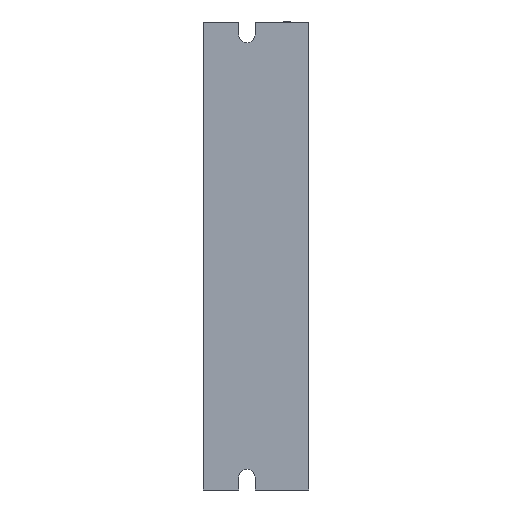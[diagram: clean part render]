
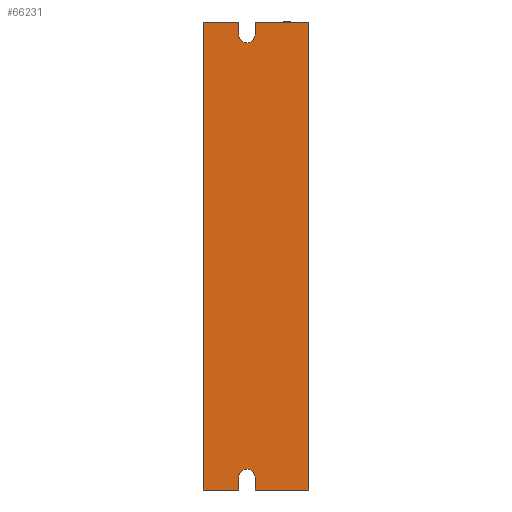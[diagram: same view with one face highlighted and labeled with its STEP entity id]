
A CAD part, left-side view. The second image highlights one B-rep face of the part: STEP entity #66231.
In plain terms, the highlighted planar face has unit normal (-1, 0, 0).
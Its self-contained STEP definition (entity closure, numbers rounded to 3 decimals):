
#467 = DIRECTION ( 'NONE',  ( 0., 0., -1. ) ) ;
#529 = VECTOR ( 'NONE', #26102, 1000. ) ;
#800 = CARTESIAN_POINT ( 'NONE',  ( -37.37, -7.832, 193.5 ) ) ;
#1780 = DIRECTION ( 'NONE',  ( 0., 0., 1. ) ) ;
#2423 = VERTEX_POINT ( 'NONE', #50806 ) ;
#3290 = LINE ( 'NONE', #75510, #19864 ) ;
#3398 = LINE ( 'NONE', #19207, #28697 ) ;
#3845 = EDGE_CURVE ( 'NONE', #77020, #67720, #69221, .T. ) ;
#4644 = ORIENTED_EDGE ( 'NONE', *, *, #79911, .T. ) ;
#5665 = ORIENTED_EDGE ( 'NONE', *, *, #71556, .T. ) ;
#6451 = PLANE ( 'NONE',  #64745 ) ;
#6980 = DIRECTION ( 'NONE',  ( 0., 0., -1. ) ) ;
#7286 = CARTESIAN_POINT ( 'NONE',  ( -37.37, 21.168, 193.5 ) ) ;
#7424 = LINE ( 'NONE', #18333, #68313 ) ;
#11623 = DIRECTION ( 'NONE',  ( 0., -1., 0. ) ) ;
#12951 = DIRECTION ( 'NONE',  ( 1., 0., 0. ) ) ;
#13306 = CIRCLE ( 'NONE', #31513, 2.25 ) ;
#13523 = ORIENTED_EDGE ( 'NONE', *, *, #27476, .T. ) ;
#13761 = ORIENTED_EDGE ( 'NONE', *, *, #72389, .T. ) ;
#15510 = EDGE_CURVE ( 'NONE', #65883, #2423, #7424, .T. ) ;
#16359 = LINE ( 'NONE', #79623, #80301 ) ;
#17771 = AXIS2_PLACEMENT_3D ( 'NONE', #49973, #12951, #56271 ) ;
#18207 = CARTESIAN_POINT ( 'NONE',  ( -37.37, 11.418, 68. ) ) ;
#18333 = CARTESIAN_POINT ( 'NONE',  ( -37.37, 11.418, 193.5 ) ) ;
#18348 = DIRECTION ( 'NONE',  ( 0., 0., 1. ) ) ;
#18935 = ORIENTED_EDGE ( 'NONE', *, *, #79303, .T. ) ;
#19012 = LINE ( 'NONE', #69257, #529 ) ;
#19207 = CARTESIAN_POINT ( 'NONE',  ( -37.37, -7.832, 193.5 ) ) ;
#19215 = VECTOR ( 'NONE', #1780, 1000. ) ;
#19277 = CIRCLE ( 'NONE', #66808, 2.25 ) ;
#19619 = VERTEX_POINT ( 'NONE', #25897 ) ;
#19864 = VECTOR ( 'NONE', #74712, 1000. ) ;
#20266 = CARTESIAN_POINT ( 'NONE',  ( -37.37, 11.418, 193.5 ) ) ;
#20737 = ORIENTED_EDGE ( 'NONE', *, *, #79803, .T. ) ;
#22058 = ORIENTED_EDGE ( 'NONE', *, *, #3845, .T. ) ;
#22246 = CARTESIAN_POINT ( 'NONE',  ( -37.37, 21.168, 64.5 ) ) ;
#22921 = ORIENTED_EDGE ( 'NONE', *, *, #77873, .F. ) ;
#25693 = DIRECTION ( 'NONE',  ( 1., 0., 0. ) ) ;
#25897 = CARTESIAN_POINT ( 'NONE',  ( -37.37, 21.168, 193.5 ) ) ;
#26102 = DIRECTION ( 'NONE',  ( 0., -1., 0. ) ) ;
#26547 = VERTEX_POINT ( 'NONE', #76868 ) ;
#26593 = ORIENTED_EDGE ( 'NONE', *, *, #74425, .F. ) ;
#27476 = EDGE_CURVE ( 'NONE', #51316, #26547, #13306, .T. ) ;
#27747 = LINE ( 'NONE', #7286, #58563 ) ;
#28165 = FACE_OUTER_BOUND ( 'NONE', #54115, .T. ) ;
#28697 = VECTOR ( 'NONE', #467, 1000. ) ;
#28711 = VERTEX_POINT ( 'NONE', #64423 ) ;
#31513 = AXIS2_PLACEMENT_3D ( 'NONE', #62597, #25693, #68844 ) ;
#32065 = CARTESIAN_POINT ( 'NONE',  ( -37.37, 6.918, 190. ) ) ;
#33208 = DIRECTION ( 'NONE',  ( 1., 0., 0. ) ) ;
#35611 = LINE ( 'NONE', #20266, #19215 ) ;
#36405 = EDGE_CURVE ( 'NONE', #43087, #65883, #19277, .T. ) ;
#39850 = CARTESIAN_POINT ( 'NONE',  ( -37.37, 11.418, 190. ) ) ;
#39930 = CIRCLE ( 'NONE', #17771, 2.25 ) ;
#41232 = VERTEX_POINT ( 'NONE', #66963 ) ;
#43087 = VERTEX_POINT ( 'NONE', #52171 ) ;
#43387 = LINE ( 'NONE', #59906, #74363 ) ;
#44100 = DIRECTION ( 'NONE',  ( 1., 0., 0. ) ) ;
#45673 = CARTESIAN_POINT ( 'NONE',  ( -37.37, 6.918, 193.5 ) ) ;
#47987 = DIRECTION ( 'NONE',  ( 0., 0., -1. ) ) ;
#48908 = VECTOR ( 'NONE', #79063, 1000. ) ;
#49973 = CARTESIAN_POINT ( 'NONE',  ( -37.37, 9.168, 190. ) ) ;
#50806 = CARTESIAN_POINT ( 'NONE',  ( -37.37, 11.418, 193.5 ) ) ;
#51316 = VERTEX_POINT ( 'NONE', #18207 ) ;
#51417 = EDGE_CURVE ( 'NONE', #80004, #28711, #3290, .T. ) ;
#51815 = ORIENTED_EDGE ( 'NONE', *, *, #52958, .T. ) ;
#52171 = CARTESIAN_POINT ( 'NONE',  ( -37.37, 9.168, 187.75 ) ) ;
#52958 = EDGE_CURVE ( 'NONE', #80004, #76758, #43387, .T. ) ;
#54115 = EDGE_LOOP ( 'NONE', ( #13523, #20737, #22058, #26593, #65088, #51815, #18935, #70366, #55279, #22921, #4644, #5665, #13761 ) ) ;
#55279 = ORIENTED_EDGE ( 'NONE', *, *, #15510, .T. ) ;
#56271 = DIRECTION ( 'NONE',  ( 0., 0., -1. ) ) ;
#56804 = DIRECTION ( 'NONE',  ( 0., 0., -1. ) ) ;
#58563 = VECTOR ( 'NONE', #56804, 1000. ) ;
#59906 = CARTESIAN_POINT ( 'NONE',  ( -37.37, 6.918, 193.5 ) ) ;
#60012 = CARTESIAN_POINT ( 'NONE',  ( -37.37, 6.918, 64.5 ) ) ;
#62597 = CARTESIAN_POINT ( 'NONE',  ( -37.37, 9.168, 68. ) ) ;
#64423 = CARTESIAN_POINT ( 'NONE',  ( -37.37, -7.832, 193.5 ) ) ;
#64745 = AXIS2_PLACEMENT_3D ( 'NONE', #800, #44100, #6980 ) ;
#65088 = ORIENTED_EDGE ( 'NONE', *, *, #51417, .F. ) ;
#65396 = LINE ( 'NONE', #78774, #48908 ) ;
#65883 = VERTEX_POINT ( 'NONE', #39850 ) ;
#66231 = ADVANCED_FACE ( 'NONE', ( #28165 ), #6451, .F. ) ;
#66808 = AXIS2_PLACEMENT_3D ( 'NONE', #70204, #33208, #76487 ) ;
#66963 = CARTESIAN_POINT ( 'NONE',  ( -37.37, 11.418, 64.5 ) ) ;
#67720 = VERTEX_POINT ( 'NONE', #76311 ) ;
#68313 = VECTOR ( 'NONE', #18348, 1000. ) ;
#68844 = DIRECTION ( 'NONE',  ( 0., 0., -1. ) ) ;
#69221 = LINE ( 'NONE', #79342, #69295 ) ;
#69257 = CARTESIAN_POINT ( 'NONE',  ( -37.37, -7.832, 193.5 ) ) ;
#69295 = VECTOR ( 'NONE', #79267, 1000. ) ;
#70204 = CARTESIAN_POINT ( 'NONE',  ( -37.37, 9.168, 190. ) ) ;
#70366 = ORIENTED_EDGE ( 'NONE', *, *, #36405, .T. ) ;
#71556 = EDGE_CURVE ( 'NONE', #71919, #41232, #16359, .T. ) ;
#71919 = VERTEX_POINT ( 'NONE', #22246 ) ;
#72389 = EDGE_CURVE ( 'NONE', #41232, #51316, #35611, .T. ) ;
#74363 = VECTOR ( 'NONE', #47987, 1000. ) ;
#74425 = EDGE_CURVE ( 'NONE', #28711, #67720, #3398, .T. ) ;
#74712 = DIRECTION ( 'NONE',  ( 0., -1., 0. ) ) ;
#75510 = CARTESIAN_POINT ( 'NONE',  ( -37.37, -7.832, 193.5 ) ) ;
#76311 = CARTESIAN_POINT ( 'NONE',  ( -37.37, -7.832, 64.5 ) ) ;
#76487 = DIRECTION ( 'NONE',  ( 0., 0., -1. ) ) ;
#76758 = VERTEX_POINT ( 'NONE', #32065 ) ;
#76868 = CARTESIAN_POINT ( 'NONE',  ( -37.37, 6.918, 68. ) ) ;
#77020 = VERTEX_POINT ( 'NONE', #60012 ) ;
#77873 = EDGE_CURVE ( 'NONE', #19619, #2423, #19012, .T. ) ;
#78774 = CARTESIAN_POINT ( 'NONE',  ( -37.37, 6.918, 193.5 ) ) ;
#79063 = DIRECTION ( 'NONE',  ( 0., 0., -1. ) ) ;
#79267 = DIRECTION ( 'NONE',  ( 0., -1., 0. ) ) ;
#79303 = EDGE_CURVE ( 'NONE', #76758, #43087, #39930, .T. ) ;
#79342 = CARTESIAN_POINT ( 'NONE',  ( -37.37, -7.832, 64.5 ) ) ;
#79623 = CARTESIAN_POINT ( 'NONE',  ( -37.37, -7.832, 64.5 ) ) ;
#79803 = EDGE_CURVE ( 'NONE', #26547, #77020, #65396, .T. ) ;
#79911 = EDGE_CURVE ( 'NONE', #19619, #71919, #27747, .T. ) ;
#80004 = VERTEX_POINT ( 'NONE', #45673 ) ;
#80301 = VECTOR ( 'NONE', #11623, 1000. ) ;
